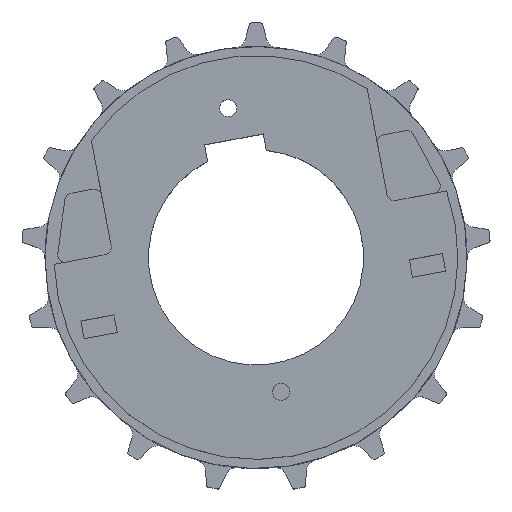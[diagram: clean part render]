
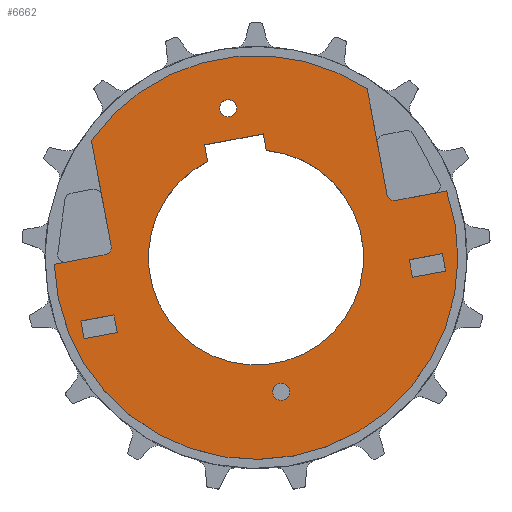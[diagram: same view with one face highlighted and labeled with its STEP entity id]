
A CAD part, top view. The second image highlights one B-rep face of the part: STEP entity #6662.
In plain terms, the highlighted planar face has unit normal (0, 0, 1).
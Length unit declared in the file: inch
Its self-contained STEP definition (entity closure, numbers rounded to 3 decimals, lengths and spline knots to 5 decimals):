
#2191=DIRECTION('',(-0.983,-0.184,0.));
#2192=VECTOR('',#2191,0.85169);
#2193=CARTESIAN_POINT('',(-2.48541,0.04406,0.74));
#2194=LINE('',#2193,#2192);
#2195=CARTESIAN_POINT('',(-2.50838,0.16693,0.74));
#2196=DIRECTION('',(0.,0.,-1.));
#2197=DIRECTION('',(0.983,0.184,0.));
#2198=AXIS2_PLACEMENT_3D('',#2195,#2196,#2197);
#2200=DIRECTION('',(0.184,-0.983,0.));
#2201=VECTOR('',#2200,1.76586);
#2202=CARTESIAN_POINT('',(-2.70999,1.92569,0.74));
#2203=LINE('',#2202,#2201);
#2204=CARTESIAN_POINT('',(0.,0.,0.74));
#2205=DIRECTION('',(0.,0.,1.));
#2206=DIRECTION('',(0.551,0.835,0.));
#2207=AXIS2_PLACEMENT_3D('',#2204,#2205,#2206);
#2209=DIRECTION('',(-0.184,0.983,0.));
#2210=VECTOR('',#2209,1.76586);
#2211=CARTESIAN_POINT('',(2.15582,1.03882,0.74));
#2212=LINE('',#2211,#2210);
#2213=CARTESIAN_POINT('',(2.2787,1.06179,0.74));
#2214=DIRECTION('',(0.,0.,-1.));
#2215=DIRECTION('',(0.184,-0.983,0.));
#2216=AXIS2_PLACEMENT_3D('',#2213,#2214,#2215);
#2218=DIRECTION('',(-0.983,-0.184,0.));
#2219=VECTOR('',#2218,0.85169);
#2220=CARTESIAN_POINT('',(3.13885,1.09541,0.74));
#2221=LINE('',#2220,#2219);
#2222=CARTESIAN_POINT('',(0.,0.,0.74));
#2223=DIRECTION('',(0.,0.,1.));
#2224=DIRECTION('',(-0.999,-0.034,0.));
#2225=AXIS2_PLACEMENT_3D('',#2222,#2223,#2224);
#2227=DIRECTION('',(0.983,0.184,0.));
#2228=VECTOR('',#2227,0.554);
#2229=CARTESIAN_POINT('',(2.57674,-0.32582,0.74));
#2230=LINE('',#2229,#2228);
#2231=DIRECTION('',(-0.184,0.983,0.));
#2232=VECTOR('',#2231,0.29375);
#2233=CARTESIAN_POINT('',(3.12131,-0.22403,0.74));
#2234=LINE('',#2233,#2232);
#2235=DIRECTION('',(-0.983,-0.184,0.));
#2236=VECTOR('',#2235,0.554);
#2237=CARTESIAN_POINT('',(3.06733,0.06472,0.74));
#2238=LINE('',#2237,#2236);
#2239=DIRECTION('',(0.184,-0.983,0.));
#2240=VECTOR('',#2239,0.29375);
#2241=CARTESIAN_POINT('',(2.52277,-0.03707,0.74));
#2242=LINE('',#2241,#2240);
#2243=DIRECTION('',(0.983,0.184,0.));
#2244=VECTOR('',#2243,0.554);
#2245=CARTESIAN_POINT('',(-2.82961,-1.33644,0.74));
#2246=LINE('',#2245,#2244);
#2247=DIRECTION('',(-0.184,0.983,0.));
#2248=VECTOR('',#2247,0.29375);
#2249=CARTESIAN_POINT('',(-2.28504,-1.23465,0.74));
#2250=LINE('',#2249,#2248);
#2251=DIRECTION('',(-0.983,-0.184,0.));
#2252=VECTOR('',#2251,0.554);
#2253=CARTESIAN_POINT('',(-2.33902,-0.9459,0.74));
#2254=LINE('',#2253,#2252);
#2255=DIRECTION('',(0.184,-0.983,0.));
#2256=VECTOR('',#2255,0.29375);
#2257=CARTESIAN_POINT('',(-2.88358,-1.0477,0.74));
#2258=LINE('',#2257,#2256);
#2259=CARTESIAN_POINT('',(-0.45937,2.45743,0.74));
#2260=DIRECTION('',(0.,0.,1.));
#2261=DIRECTION('',(0.983,0.184,0.));
#2262=AXIS2_PLACEMENT_3D('',#2259,#2260,#2261);
#2264=CARTESIAN_POINT('',(-0.45937,2.45743,0.74));
#2265=DIRECTION('',(0.,0.,1.));
#2266=DIRECTION('',(-0.983,-0.184,0.));
#2267=AXIS2_PLACEMENT_3D('',#2264,#2265,#2266);
#2269=CARTESIAN_POINT('',(0.41344,-2.21169,0.74));
#2270=DIRECTION('',(0.,0.,1.));
#2271=DIRECTION('',(0.983,0.184,0.));
#2272=AXIS2_PLACEMENT_3D('',#2269,#2270,#2271);
#2274=CARTESIAN_POINT('',(0.41344,-2.21169,0.74));
#2275=DIRECTION('',(0.,0.,1.));
#2276=DIRECTION('',(-0.983,-0.184,0.));
#2277=AXIS2_PLACEMENT_3D('',#2274,#2275,#2276);
#2279=DIRECTION('',(0.184,-0.983,0.));
#2280=VECTOR('',#2279,0.276);
#2281=CARTESIAN_POINT('',(-0.84704,1.85373,0.74));
#2282=LINE('',#2281,#2280);
#2283=CARTESIAN_POINT('',(0.,0.,0.74));
#2284=DIRECTION('',(0.,0.,1.));
#2285=DIRECTION('',(-0.45,0.893,0.));
#2286=AXIS2_PLACEMENT_3D('',#2283,#2284,#2285);
#2288=DIRECTION('',(-0.184,0.983,0.));
#2289=VECTOR('',#2288,0.276);
#2290=CARTESIAN_POINT('',(0.17092,1.76324,0.74));
#2291=LINE('',#2290,#2289);
#2292=DIRECTION('',(-0.983,-0.184,0.));
#2293=VECTOR('',#2292,0.984);
#2294=CARTESIAN_POINT('',(0.1202,2.03454,0.74));
#2295=LINE('',#2294,#2293);
#3281=CARTESIAN_POINT('',(-3.3226,-0.11244,0.74));
#3282=CARTESIAN_POINT('',(3.13885,1.09541,0.74));
#3283=VERTEX_POINT('',#3281);
#3284=VERTEX_POINT('',#3282);
#3285=CARTESIAN_POINT('',(1.83135,2.77461,0.74));
#3286=CARTESIAN_POINT('',(-2.70999,1.92569,0.74));
#3287=VERTEX_POINT('',#3285);
#3288=VERTEX_POINT('',#3286);
#3313=CARTESIAN_POINT('',(-2.38551,0.1899,0.74));
#3314=VERTEX_POINT('',#3313);
#3315=CARTESIAN_POINT('',(-2.48541,0.04406,0.74));
#3316=VERTEX_POINT('',#3315);
#3317=CARTESIAN_POINT('',(2.30166,0.93892,0.74));
#3318=VERTEX_POINT('',#3317);
#3319=CARTESIAN_POINT('',(2.15582,1.03882,0.74));
#3320=VERTEX_POINT('',#3319);
#3441=CARTESIAN_POINT('',(2.57674,-0.32582,0.74));
#3442=CARTESIAN_POINT('',(3.12131,-0.22403,0.74));
#3443=VERTEX_POINT('',#3441);
#3444=VERTEX_POINT('',#3442);
#3445=CARTESIAN_POINT('',(3.06733,0.06472,0.74));
#3446=VERTEX_POINT('',#3445);
#3447=CARTESIAN_POINT('',(2.52277,-0.03707,0.74));
#3448=VERTEX_POINT('',#3447);
#3457=CARTESIAN_POINT('',(-2.82961,-1.33644,0.74));
#3458=CARTESIAN_POINT('',(-2.28504,-1.23465,0.74));
#3459=VERTEX_POINT('',#3457);
#3460=VERTEX_POINT('',#3458);
#3461=CARTESIAN_POINT('',(-2.33902,-0.9459,0.74));
#3462=VERTEX_POINT('',#3461);
#3463=CARTESIAN_POINT('',(-2.88358,-1.0477,0.74));
#3464=VERTEX_POINT('',#3463);
#3573=CARTESIAN_POINT('',(-0.32127,2.48325,0.74));
#3574=CARTESIAN_POINT('',(-0.59748,2.43162,0.74));
#3575=VERTEX_POINT('',#3573);
#3576=VERTEX_POINT('',#3574);
#3585=CARTESIAN_POINT('',(-0.84704,1.85373,0.74));
#3586=CARTESIAN_POINT('',(-0.79633,1.58243,0.74));
#3587=VERTEX_POINT('',#3585);
#3588=VERTEX_POINT('',#3586);
#3589=CARTESIAN_POINT('',(0.17092,1.76324,0.74));
#3590=VERTEX_POINT('',#3589);
#3591=CARTESIAN_POINT('',(0.1202,2.03454,0.74));
#3592=VERTEX_POINT('',#3591);
#3597=CARTESIAN_POINT('',(0.55154,-2.18587,0.74));
#3598=CARTESIAN_POINT('',(0.27533,-2.23751,0.74));
#3599=VERTEX_POINT('',#3597);
#3600=VERTEX_POINT('',#3598);
#6603=CARTESIAN_POINT('',(0.,0.,0.74));
#6604=DIRECTION('',(0.,0.,1.));
#6605=DIRECTION('',(0.983,0.184,0.));
#6606=AXIS2_PLACEMENT_3D('',#6603,#6604,#6605);
#6607=PLANE('',#6606);
#6608=ORIENTED_EDGE('',*,*,#6502,.F.);
#6609=ORIENTED_EDGE('',*,*,#6472,.F.);
#6610=ORIENTED_EDGE('',*,*,#6439,.F.);
#6612=ORIENTED_EDGE('',*,*,#6611,.F.);
#6613=ORIENTED_EDGE('',*,*,#6306,.F.);
#6614=ORIENTED_EDGE('',*,*,#6275,.F.);
#6615=ORIENTED_EDGE('',*,*,#6229,.F.);
#6617=ORIENTED_EDGE('',*,*,#6616,.F.);
#6618=EDGE_LOOP('',(#6608,#6609,#6610,#6612,#6613,#6614,#6615,#6617));
#6619=FACE_OUTER_BOUND('',#6618,.F.);
#6621=ORIENTED_EDGE('',*,*,#6620,.T.);
#6623=ORIENTED_EDGE('',*,*,#6622,.T.);
#6625=ORIENTED_EDGE('',*,*,#6624,.T.);
#6627=ORIENTED_EDGE('',*,*,#6626,.T.);
#6628=EDGE_LOOP('',(#6621,#6623,#6625,#6627));
#6629=FACE_BOUND('',#6628,.F.);
#6631=ORIENTED_EDGE('',*,*,#6630,.T.);
#6633=ORIENTED_EDGE('',*,*,#6632,.T.);
#6635=ORIENTED_EDGE('',*,*,#6634,.T.);
#6637=ORIENTED_EDGE('',*,*,#6636,.T.);
#6638=EDGE_LOOP('',(#6631,#6633,#6635,#6637));
#6639=FACE_BOUND('',#6638,.F.);
#6641=ORIENTED_EDGE('',*,*,#6640,.T.);
#6643=ORIENTED_EDGE('',*,*,#6642,.T.);
#6644=EDGE_LOOP('',(#6641,#6643));
#6645=FACE_BOUND('',#6644,.F.);
#6647=ORIENTED_EDGE('',*,*,#6646,.T.);
#6649=ORIENTED_EDGE('',*,*,#6648,.T.);
#6650=EDGE_LOOP('',(#6647,#6649));
#6651=FACE_BOUND('',#6650,.F.);
#6653=ORIENTED_EDGE('',*,*,#6652,.T.);
#6655=ORIENTED_EDGE('',*,*,#6654,.T.);
#6657=ORIENTED_EDGE('',*,*,#6656,.T.);
#6659=ORIENTED_EDGE('',*,*,#6658,.T.);
#6660=EDGE_LOOP('',(#6653,#6655,#6657,#6659));
#6661=FACE_BOUND('',#6660,.F.);
#6662=ADVANCED_FACE('',(#6619,#6629,#6639,#6645,#6651,#6661),#6607,.T.);
#2199=CIRCLE('',#2198,0.125);
#2208=CIRCLE('',#2207,3.3245);
#2217=CIRCLE('',#2216,0.125);
#2226=CIRCLE('',#2225,3.3245);
#2263=CIRCLE('',#2262,0.1405);
#2268=CIRCLE('',#2267,0.1405);
#2273=CIRCLE('',#2272,0.1405);
#2278=CIRCLE('',#2277,0.1405);
#2287=CIRCLE('',#2286,1.7715);
#6229=EDGE_CURVE('',#3284,#3318,#2221,.T.);
#6275=EDGE_CURVE('',#3318,#3320,#2217,.T.);
#6306=EDGE_CURVE('',#3320,#3287,#2212,.T.);
#6439=EDGE_CURVE('',#3288,#3314,#2203,.T.);
#6472=EDGE_CURVE('',#3314,#3316,#2199,.T.);
#6502=EDGE_CURVE('',#3316,#3283,#2194,.T.);
#6611=EDGE_CURVE('',#3287,#3288,#2208,.T.);
#6616=EDGE_CURVE('',#3283,#3284,#2226,.T.);
#6620=EDGE_CURVE('',#3443,#3444,#2230,.T.);
#6622=EDGE_CURVE('',#3444,#3446,#2234,.T.);
#6624=EDGE_CURVE('',#3446,#3448,#2238,.T.);
#6626=EDGE_CURVE('',#3448,#3443,#2242,.T.);
#6630=EDGE_CURVE('',#3459,#3460,#2246,.T.);
#6632=EDGE_CURVE('',#3460,#3462,#2250,.T.);
#6634=EDGE_CURVE('',#3462,#3464,#2254,.T.);
#6636=EDGE_CURVE('',#3464,#3459,#2258,.T.);
#6640=EDGE_CURVE('',#3575,#3576,#2263,.T.);
#6642=EDGE_CURVE('',#3576,#3575,#2268,.T.);
#6646=EDGE_CURVE('',#3599,#3600,#2273,.T.);
#6648=EDGE_CURVE('',#3600,#3599,#2278,.T.);
#6652=EDGE_CURVE('',#3587,#3588,#2282,.T.);
#6654=EDGE_CURVE('',#3588,#3590,#2287,.T.);
#6656=EDGE_CURVE('',#3590,#3592,#2291,.T.);
#6658=EDGE_CURVE('',#3592,#3587,#2295,.T.);
